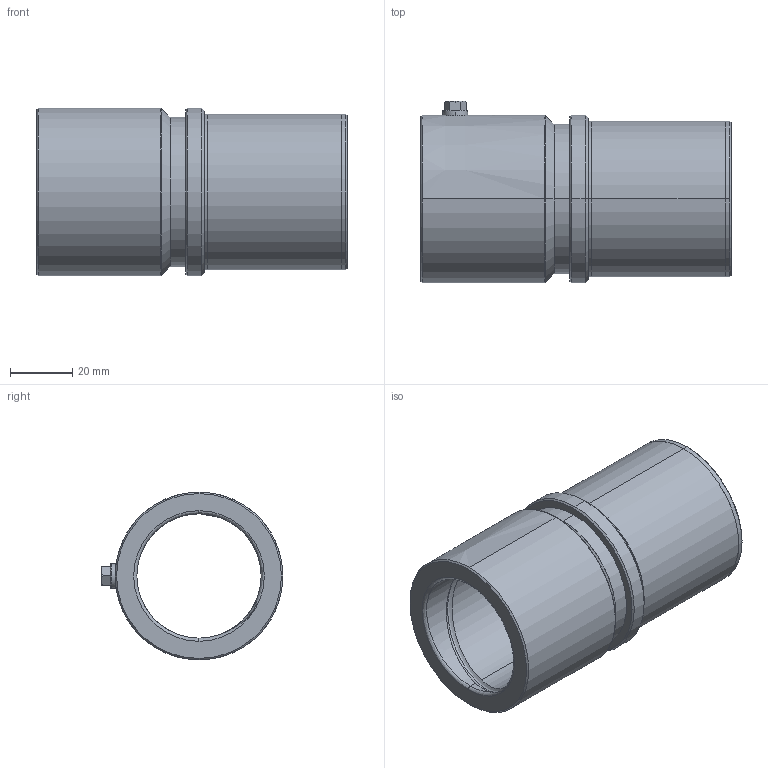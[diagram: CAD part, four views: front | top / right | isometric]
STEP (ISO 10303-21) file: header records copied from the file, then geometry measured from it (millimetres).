
FILE_DESCRIPTION( ( 'STEP AP203' ), '1' );
FILE_NAME( 'D:/Delta 3 D/D23/D23 - 40x46.step', '2002-12-31T22:36:20', ( ' ' ), ( ' ' ), 'XStep 1.0', ' ', ' ' );
FILE_SCHEMA( ( 'CONFIG_CONTROL_DESIGN' ) );
Length unit declared in the file: metre
Products named in the file (1): 1
Bounding box: 100 x 58.5 x 54 mm (x, y, z)
Volume: 84709.6 mm3; surface area: 31638.1 mm2
Topology: 1 solids, 1 shells, 69 faces, 160 edges, 98 vertices
Faces by surface type: revolution 40, bspline 29
Entity records: 3888 total; most frequent: CARTESIAN_POINT 2474, ORIENTED_EDGE 316, DIRECTION 203, EDGE_CURVE 158, VERTEX_POINT 98, EDGE_LOOP 78, ADVANCED_FACE 69, FACE_OUTER_BOUND 69
